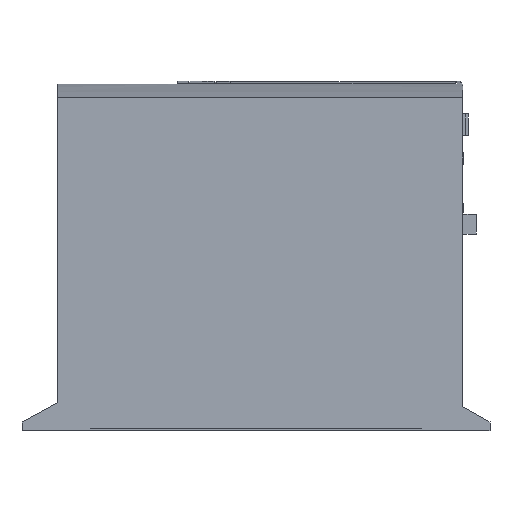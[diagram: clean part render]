
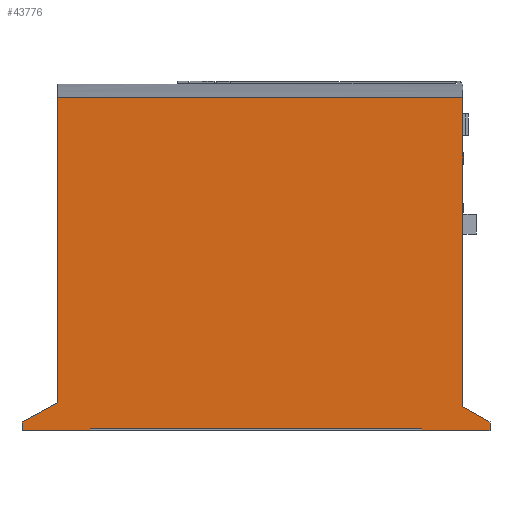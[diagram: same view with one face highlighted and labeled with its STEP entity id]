
A CAD part, left-side view. The second image highlights one B-rep face of the part: STEP entity #43776.
In plain terms, the highlighted planar face has unit normal (-1, 0, 0).
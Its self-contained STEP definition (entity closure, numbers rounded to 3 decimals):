
#328 = DIRECTION ( 'NONE',  ( 0., 0., -1. ) ) ;
#3549 = DIRECTION ( 'NONE',  ( 0., -1., 0. ) ) ;
#7536 = VERTEX_POINT ( 'NONE', #10090 ) ;
#7635 = LINE ( 'NONE', #73059, #68811 ) ;
#7846 = LINE ( 'NONE', #154193, #76728 ) ;
#8765 = EDGE_CURVE ( 'NONE', #7536, #92925, #7846, .T. ) ;
#8964 = CARTESIAN_POINT ( 'NONE',  ( 0., 309.5, -9.714 ) ) ;
#10090 = CARTESIAN_POINT ( 'NONE',  ( 0., 49., -246.7 ) ) ;
#12428 = ORIENTED_EDGE ( 'NONE', *, *, #123905, .F. ) ;
#13084 = VECTOR ( 'NONE', #148862, 1000. ) ;
#13199 = EDGE_CURVE ( 'NONE', #157415, #150425, #74099, .T. ) ;
#14037 = LINE ( 'NONE', #111032, #144300 ) ;
#14837 = CARTESIAN_POINT ( 'NONE',  ( 0., 335., -248. ) ) ;
#17062 = EDGE_CURVE ( 'NONE', #130138, #115498, #116872, .T. ) ;
#17313 = AXIS2_PLACEMENT_3D ( 'NONE', #111074, #50015, #135708 ) ;
#18906 = VECTOR ( 'NONE', #60600, 1000. ) ;
#20768 = LINE ( 'NONE', #150194, #82080 ) ;
#21998 = CARTESIAN_POINT ( 'NONE',  ( 0., 19.5, -9.714 ) ) ;
#22638 = ORIENTED_EDGE ( 'NONE', *, *, #13199, .T. ) ;
#22760 = LINE ( 'NONE', #158631, #18906 ) ;
#25712 = VECTOR ( 'NONE', #60348, 1000. ) ;
#30448 = LINE ( 'NONE', #147419, #91735 ) ;
#32087 = EDGE_CURVE ( 'NONE', #50632, #130138, #78140, .T. ) ;
#34759 = ORIENTED_EDGE ( 'NONE', *, *, #48404, .F. ) ;
#37763 = PLANE ( 'NONE',  #17313 ) ;
#40972 = CARTESIAN_POINT ( 'NONE',  ( 0., 0., -241.7 ) ) ;
#41097 = CARTESIAN_POINT ( 'NONE',  ( 0., 49., -248. ) ) ;
#43370 = ORIENTED_EDGE ( 'NONE', *, *, #155541, .F. ) ;
#43776 = ADVANCED_FACE ( 'NONE', ( #130303 ), #37763, .T. ) ;
#45798 = VERTEX_POINT ( 'NONE', #8964 ) ;
#46801 = CARTESIAN_POINT ( 'NONE',  ( 0., 309.5, -227.9 ) ) ;
#48404 = EDGE_CURVE ( 'NONE', #157415, #51355, #14037, .T. ) ;
#50015 = DIRECTION ( 'NONE',  ( -1., 0., 0. ) ) ;
#50632 = VERTEX_POINT ( 'NONE', #146049 ) ;
#51355 = VERTEX_POINT ( 'NONE', #70273 ) ;
#52397 = ORIENTED_EDGE ( 'NONE', *, *, #82191, .T. ) ;
#58232 = LINE ( 'NONE', #72595, #25712 ) ;
#59071 = DIRECTION ( 'NONE',  ( 0., 0., -1. ) ) ;
#59402 = EDGE_CURVE ( 'NONE', #79206, #7536, #20768, .T. ) ;
#60348 = DIRECTION ( 'NONE',  ( 0., 0.879, -0.476 ) ) ;
#60600 = DIRECTION ( 'NONE',  ( 0., 0., 1. ) ) ;
#64132 = VECTOR ( 'NONE', #59071, 1000. ) ;
#65927 = DIRECTION ( 'NONE',  ( 0., 0.871, 0.491 ) ) ;
#67504 = ORIENTED_EDGE ( 'NONE', *, *, #139088, .T. ) ;
#68424 = DIRECTION ( 'NONE',  ( 0., 0., -1. ) ) ;
#68811 = VECTOR ( 'NONE', #147037, 1000. ) ;
#70273 = CARTESIAN_POINT ( 'NONE',  ( 0., 0., -248. ) ) ;
#70666 = VERTEX_POINT ( 'NONE', #21998 ) ;
#72595 = CARTESIAN_POINT ( 'NONE',  ( 0., 335., -241.7 ) ) ;
#73059 = CARTESIAN_POINT ( 'NONE',  ( 0., 0., -248. ) ) ;
#74099 = LINE ( 'NONE', #87966, #131649 ) ;
#74351 = DIRECTION ( 'NONE',  ( 0., 0., 1. ) ) ;
#76728 = VECTOR ( 'NONE', #68424, 1000. ) ;
#78007 = CARTESIAN_POINT ( 'NONE',  ( 0., 309.5, -227.9 ) ) ;
#78140 = LINE ( 'NONE', #87802, #13084 ) ;
#79206 = VERTEX_POINT ( 'NONE', #83531 ) ;
#82080 = VECTOR ( 'NONE', #3549, 1000. ) ;
#82191 = EDGE_CURVE ( 'NONE', #143411, #115498, #58232, .T. ) ;
#82851 = CARTESIAN_POINT ( 'NONE',  ( 0., 335., -241.7 ) ) ;
#83531 = CARTESIAN_POINT ( 'NONE',  ( 0., 286., -246.7 ) ) ;
#84802 = ORIENTED_EDGE ( 'NONE', *, *, #116122, .T. ) ;
#87802 = CARTESIAN_POINT ( 'NONE',  ( 0., 0., -248. ) ) ;
#87966 = CARTESIAN_POINT ( 'NONE',  ( 0., 19.5, -230.7 ) ) ;
#91735 = VECTOR ( 'NONE', #74351, 1000. ) ;
#92925 = VERTEX_POINT ( 'NONE', #41097 ) ;
#93597 = CARTESIAN_POINT ( 'NONE',  ( 0., 19.5, -230.7 ) ) ;
#96797 = LINE ( 'NONE', #46801, #64132 ) ;
#96881 = ORIENTED_EDGE ( 'NONE', *, *, #105804, .T. ) ;
#97782 = ORIENTED_EDGE ( 'NONE', *, *, #17062, .F. ) ;
#99674 = DIRECTION ( 'NONE',  ( 0., 0., 1. ) ) ;
#100931 = ORIENTED_EDGE ( 'NONE', *, *, #59402, .T. ) ;
#101616 = VECTOR ( 'NONE', #99674, 1000. ) ;
#102281 = LINE ( 'NONE', #116463, #106086 ) ;
#104767 = ORIENTED_EDGE ( 'NONE', *, *, #8765, .T. ) ;
#105804 = EDGE_CURVE ( 'NONE', #50632, #79206, #22760, .T. ) ;
#106086 = VECTOR ( 'NONE', #128822, 1000. ) ;
#109244 = ORIENTED_EDGE ( 'NONE', *, *, #32087, .F. ) ;
#111032 = CARTESIAN_POINT ( 'NONE',  ( 0., 0., 0. ) ) ;
#111074 = CARTESIAN_POINT ( 'NONE',  ( 0., 0., 0. ) ) ;
#111215 = EDGE_LOOP ( 'NONE', ( #12428, #84802, #52397, #97782, #109244, #96881, #100931, #104767, #43370, #34759, #22638, #67504 ) ) ;
#115498 = VERTEX_POINT ( 'NONE', #82851 ) ;
#116122 = EDGE_CURVE ( 'NONE', #45798, #143411, #96797, .T. ) ;
#116463 = CARTESIAN_POINT ( 'NONE',  ( 0., 335., -9.714 ) ) ;
#116872 = LINE ( 'NONE', #148331, #101616 ) ;
#123905 = EDGE_CURVE ( 'NONE', #45798, #70666, #102281, .T. ) ;
#128822 = DIRECTION ( 'NONE',  ( 0., -1., 0. ) ) ;
#130138 = VERTEX_POINT ( 'NONE', #14837 ) ;
#130303 = FACE_OUTER_BOUND ( 'NONE', #111215, .T. ) ;
#131649 = VECTOR ( 'NONE', #65927, 1000. ) ;
#135708 = DIRECTION ( 'NONE',  ( 0., 0., 1. ) ) ;
#139088 = EDGE_CURVE ( 'NONE', #150425, #70666, #30448, .T. ) ;
#143411 = VERTEX_POINT ( 'NONE', #78007 ) ;
#144300 = VECTOR ( 'NONE', #328, 1000. ) ;
#146049 = CARTESIAN_POINT ( 'NONE',  ( 0., 286., -248. ) ) ;
#147037 = DIRECTION ( 'NONE',  ( 0., 1., 0. ) ) ;
#147419 = CARTESIAN_POINT ( 'NONE',  ( 0., 19.5, 0. ) ) ;
#148331 = CARTESIAN_POINT ( 'NONE',  ( 0., 335., 0. ) ) ;
#148862 = DIRECTION ( 'NONE',  ( 0., 1., 0. ) ) ;
#150194 = CARTESIAN_POINT ( 'NONE',  ( 0., 286., -246.7 ) ) ;
#150425 = VERTEX_POINT ( 'NONE', #93597 ) ;
#154193 = CARTESIAN_POINT ( 'NONE',  ( 0., 49., -248. ) ) ;
#155541 = EDGE_CURVE ( 'NONE', #51355, #92925, #7635, .T. ) ;
#157415 = VERTEX_POINT ( 'NONE', #40972 ) ;
#158631 = CARTESIAN_POINT ( 'NONE',  ( 0., 286., -248. ) ) ;
